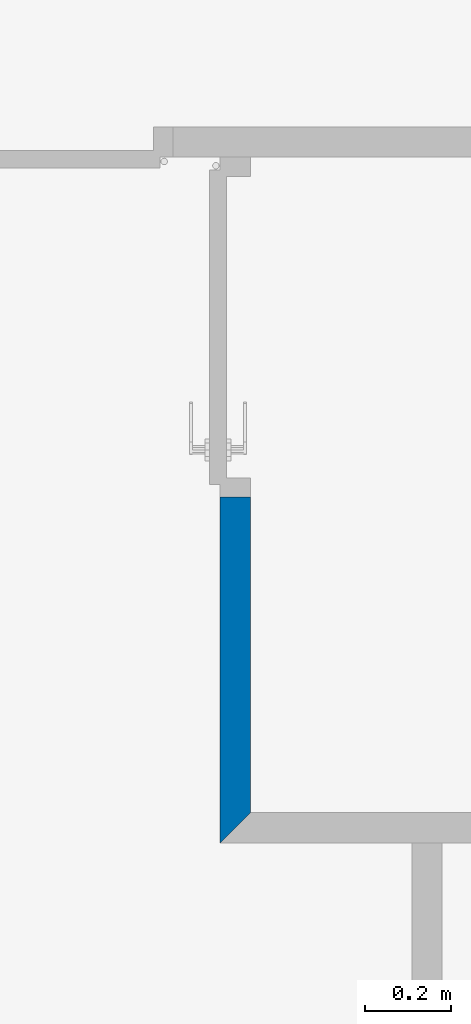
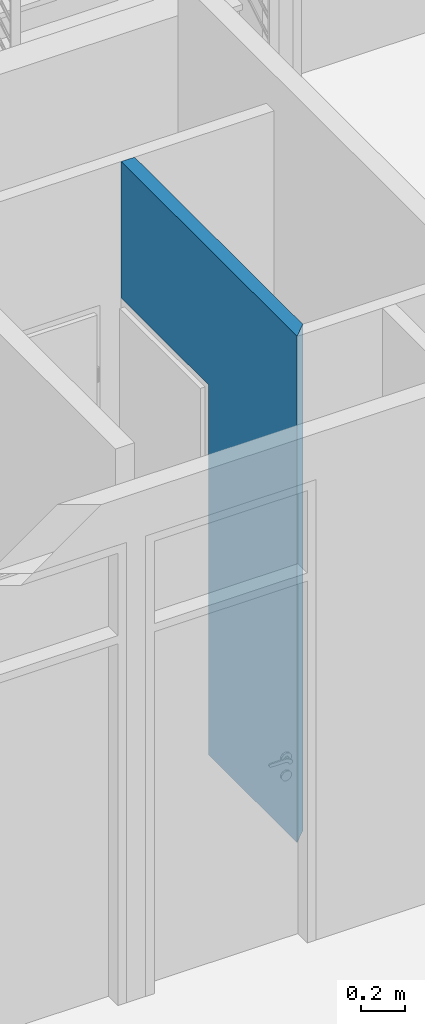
# One storey, part 12 of 45: 1 wall, 1 opening.
"""IFC2X3 building model written with IfcOpenShell, lengths in metres."""

from ifc_helpers import new_model, entity, si_unit, converted_unit, money_unit, direction, frame, origin_with_axes, place, context, subcontext, project, spatial, polyline, outline, extrude, material, layer, layer_set, layer_usage, type_object, element, save


model = new_model("IFC2X3")

# Units and contexts
model_context = context("Model", 3, precision=1e-05, world=origin_with_axes(), true_north=direction((0.0, 1.0)))
body_context = subcontext(model_context, "Body", "Model", "MODEL_VIEW")
ifc_project = project(units=[si_unit("LENGTHUNIT", "METRE"), si_unit("AREAUNIT", "SQUARE_METRE"), si_unit("VOLUMEUNIT", "CUBIC_METRE"), converted_unit("PLANEANGLEUNIT", "DEGREE", entity("IfcPlaneAngleMeasure", 0.0174532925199), si_unit("PLANEANGLEUNIT", "RADIAN"), dimensions=[0, 0, 0, 0, 0, 0, 0]), si_unit("SOLIDANGLEUNIT", "STERADIAN"), money_unit("EUR"), converted_unit("TIMEUNIT", "Year", entity("IfcTimeMeasure", 31556926.0), si_unit("TIMEUNIT", "SECOND"), dimensions=[0, 0, 0, 0, 0, 0, 0]), si_unit("MASSUNIT", "GRAM"), si_unit("THERMODYNAMICTEMPERATUREUNIT", "DEGREE_CELSIUS"), si_unit("LUMINOUSINTENSITYUNIT", "LUMEN")], contexts=[model_context])

# Site, building, storey
site_placement = place(None, origin_with_axes())
site = spatial("IfcSite", under=ifc_project, at=site_placement, Name="Site", CompositionType="ELEMENT")
building_placement = place(site_placement, origin_with_axes())
building = spatial("IfcBuilding", under=site, at=building_placement, Name="Bâtiment", CompositionType="ELEMENT")
storey_placement = place(building_placement, origin_with_axes())
storey = spatial("IfcBuildingStorey", under=building, at=storey_placement, Name="NIVEAU BAS GYMNASE", CompositionType="ELEMENT", Elevation=0.0)

# Wall, opening
ifc_material = material(Name="Hachure solide* 3962059836")
ifc_layer = layer(ifc_material, 0.07, ventilated="UNKNOWN")
ifc_layer_set = layer_set([ifc_layer], Name="Hachure solide* 3962059836 0.07")
ifc_layer_usage = layer_usage(ifc_layer_set, "AXIS2", "POSITIVE", -0.07)
wall_type = type_object("IfcWallType", Name="Hachure solide* 3962059836 70", PredefinedType="NOTDEFINED")
wall_placement = place(storey_placement, frame((49.038457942, 10.7156830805, 0.0), z_axis=(0.0, 0.0, 1.0), x_axis=(0.0, 1.0, 0.0)))
wall = element("IfcWallStandardCase", 1, at=wall_placement, inside=storey, type_object=wall_type, material=ifc_layer_usage, Name="Mur-004", context=body_context, shape_type="SweptSolid", body=[
    extrude(outline(polyline([(0.0, -0.07), (1.5231326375, -0.07), (1.5231326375, 0.0), (-0.07, 0.0), (0.0, -0.07)])), origin_with_axes(), (0.0, 0.0, 1.0), 2.8),
])
opening_placement = place(wall_placement, frame((1.12813264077, 0.0, -0.01), z_axis=(0.0, 0.0, 1.0), x_axis=(1.0, 0.0, 0.0)))
element("IfcOpeningElement", 2, at=opening_placement, cuts=wall, Name="Por-019", context=body_context, shape_type="SweptSolid", body=[
    extrude(outline(polyline([(-0.395, 0.0), (-0.395, -2.055), (0.395, -2.055), (0.395, 0.0), (-0.395, 0.0)])), frame((0.0, -0.07, 0.0), z_axis=(0.0, 1.0, 0.0), x_axis=(1.0, 0.0, 0.0)), (0.0, 0.0, 1.0), 0.14),
])

save(model, "model.ifc")
